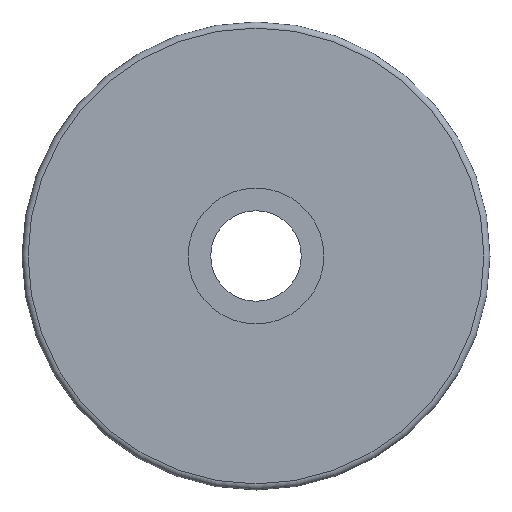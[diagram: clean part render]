
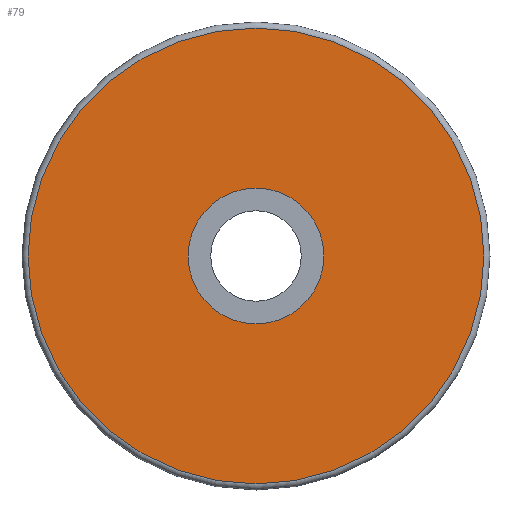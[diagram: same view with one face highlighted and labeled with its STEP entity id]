
A CAD part, front view. The second image highlights one B-rep face of the part: STEP entity #79.
In plain terms, the highlighted planar face has unit normal (0, -1, 0).
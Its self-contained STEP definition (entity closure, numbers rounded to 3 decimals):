
#79 = ADVANCED_FACE( '', ( #98, #99 ), #100, .T. );
#98 = FACE_OUTER_BOUND( '', #128, .T. );
#99 = FACE_BOUND( '', #129, .T. );
#100 = PLANE( '', #130 );
#128 = EDGE_LOOP( '', ( #166 ) );
#129 = EDGE_LOOP( '', ( #167 ) );
#130 = AXIS2_PLACEMENT_3D( '', #168, #169, #170 );
#166 = ORIENTED_EDGE( '', *, *, #201, .T. );
#167 = ORIENTED_EDGE( '', *, *, #200, .F. );
#168 = CARTESIAN_POINT( '', ( 4.5, 0., 0. ) );
#169 = DIRECTION( '', ( 0., -1., 0. ) );
#170 = DIRECTION( '', ( 0., 0., -1. ) );
#200 = EDGE_CURVE( '', #214, #214, #215, .T. );
#201 = EDGE_CURVE( '', #216, #216, #217, .T. );
#214 = VERTEX_POINT( '', #234 );
#215 = CIRCLE( '', #235, 4.5 );
#216 = VERTEX_POINT( '', #236 );
#217 = CIRCLE( '', #237, 15.1 );
#234 = CARTESIAN_POINT( '', ( 0., 0., -4.5 ) );
#235 = AXIS2_PLACEMENT_3D( '', #258, #259, #260 );
#236 = CARTESIAN_POINT( '', ( 0., 0., -15.1 ) );
#237 = AXIS2_PLACEMENT_3D( '', #261, #262, #263 );
#258 = CARTESIAN_POINT( '', ( 0., 0., 0. ) );
#259 = DIRECTION( '', ( 0., -1., 0. ) );
#260 = DIRECTION( '', ( 0., 0., -1. ) );
#261 = CARTESIAN_POINT( '', ( 0., 0., 0. ) );
#262 = DIRECTION( '', ( 0., -1., 0. ) );
#263 = DIRECTION( '', ( 0., 0., -1. ) );
